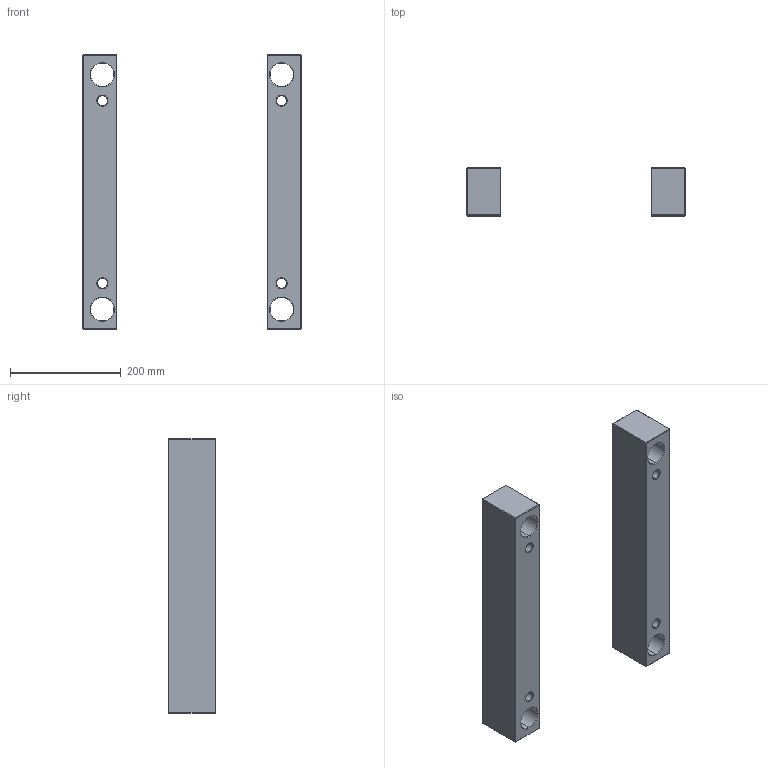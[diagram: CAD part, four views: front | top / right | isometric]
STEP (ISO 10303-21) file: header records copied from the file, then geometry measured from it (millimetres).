
FILE_DESCRIPTION (( 'STEP AP214' ), '1' );
FILE_NAME ('ESP-EU-396X496x86.STEP', '2020-04-16T11:42:32', ( 'August' ), ( '' ), 'SwSTEP 2.0', 'SolidWorks 2018', '' );
FILE_SCHEMA (( 'AUTOMOTIVE_DESIGN' ));
Length unit declared in the file: millimetre
Products named in the file (1): ESP-EU-396X496x86
Bounding box: 396 x 86 x 496 mm (x, y, z)
Volume: 4721878.4 mm3; surface area: 362796.7 mm2
Topology: 2 solids, 2 shells, 100 faces, 208 edges, 112 vertices
Faces by surface type: plane 52, cone 32, cylinder 16
Entity records: 2631 total; most frequent: DIRECTION 474, CARTESIAN_POINT 421, ORIENTED_EDGE 416, EDGE_CURVE 208, AXIS2_PLACEMENT_3D 165, VECTOR 144, LINE 144, EDGE_LOOP 116
